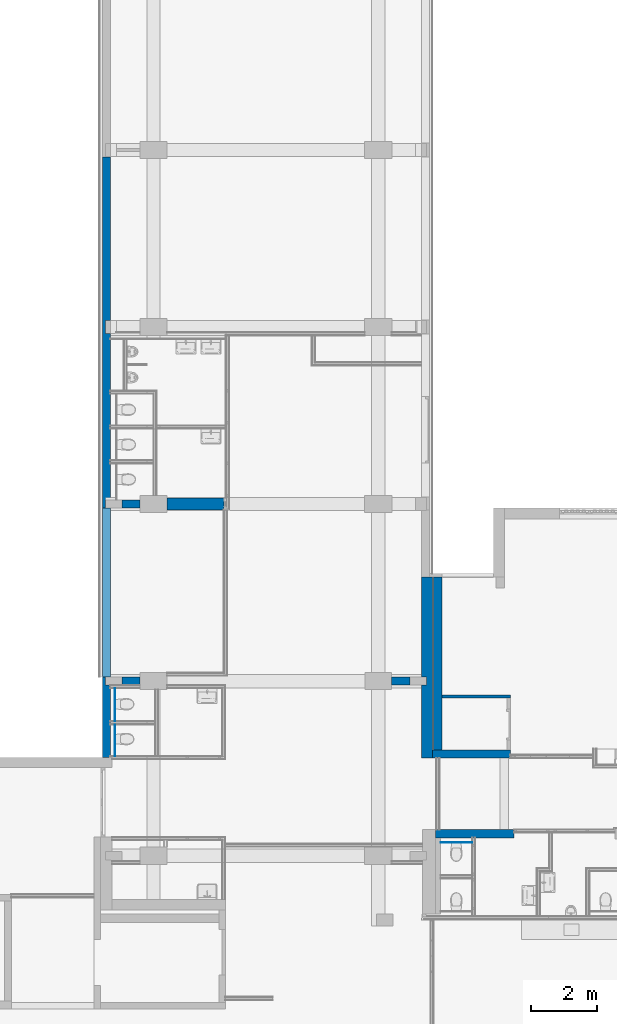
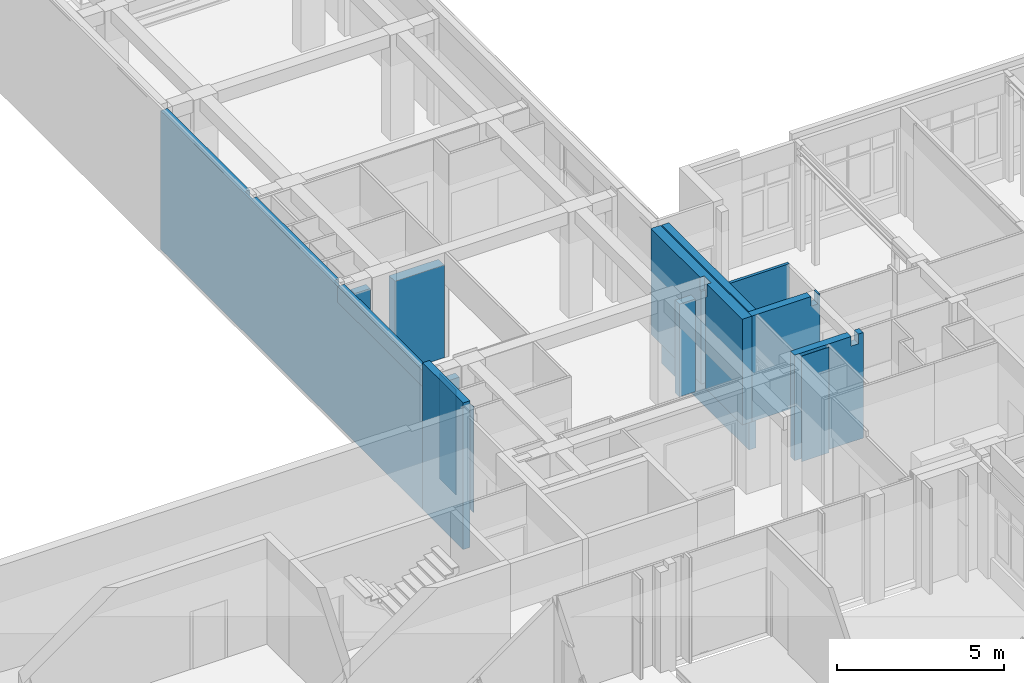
# One storey, part 86 of 135: 15 walls, 1 opening.
"""IFC2X3 building model written with IfcOpenShell, lengths in millimetres."""

import ifcopenshell
import ifcopenshell.guid

model = None  # the IFC model being written
_history = None  # IfcOwnerHistory: only IFC2X3 demands one
_inside = {}  # id of a spatial element -> (the spatial element, [elements in it])
_under = {}  # id of a project, library or spatial element -> (it, [spatial elements below it])
_declared = {}  # id of a project -> (the project, [libraries it declares])
_typed = {}  # id of a type object -> (the type object, [elements of that type])
_made_of = {}  # id of a material, layer set ... -> (it, [elements and type objects made of it])


def new_model(schema):
    """Start an empty IFC model of exactly this schema.

    Asked for "IFC4X3", IfcOpenShell would pick the latest addendum, in which some entities
    have other attributes; the version numbers below select the first issue.
    IFC2X3 requires an IfcOwnerHistory on every rooted entity: one is made here for all.
    """
    global model, _history
    if schema == "IFC4X3":
        model = ifcopenshell.file(schema_version=(4, 3, 0, 0))
    else:
        model = ifcopenshell.file(schema=schema)
    _inside.clear()
    _under.clear()
    _declared.clear()
    _typed.clear()
    _made_of.clear()
    _history = None
    if model.schema == "IFC2X3":
        org = make("IfcOrganization", Name="unknown")
        user = make(
            "IfcPersonAndOrganization",
            ThePerson=make("IfcPerson", FamilyName="unknown"),
            TheOrganization=org,
        )
        app = make(
            "IfcApplication",
            ApplicationDeveloper=org,
            Version="unknown",
            ApplicationFullName="unknown",
            ApplicationIdentifier="unknown",
        )
        _history = make(
            "IfcOwnerHistory",
            OwningUser=user,
            OwningApplication=app,
            ChangeAction="ADDED",
            CreationDate=0,
        )
    return model


def make(cls, **values):
    """One entity of the class cls with the attributes given. An attribute that is None is left unset."""
    return model.create_entity(
        cls, **{name: value for name, value in values.items() if value is not None}
    )


def entity(cls, *values):
    """Any entity or typed value of the class cls, its attributes in the order of the schema. None: left unset."""
    e = model.create_entity(cls)
    for i, value in enumerate(values):
        if value is not None:
            e[i] = value
    return e


def rooted(cls, **values):
    """An entity with a GlobalId (a new one), such as an element, a storey or a relation."""
    return make(cls, GlobalId=ifcopenshell.guid.new(), OwnerHistory=_history, **values)


def si_unit(unit_type, name, prefix=None):
    """IfcSIUnit, for example si_unit("LENGTHUNIT", "METRE", prefix="MILLI")."""
    return make("IfcSIUnit", UnitType=unit_type, Prefix=prefix, Name=name)


def converted_unit(unit_type, name, factor, base, dimensions=None, offset=None):
    """IfcConversionBasedUnit, such as the inch: factor (a typed value) times the base unit."""
    return make(
        "IfcConversionBasedUnit"
        if offset is None
        else "IfcConversionBasedUnitWithOffset",
        ConversionOffset=offset,
        Dimensions=None
        if dimensions is None
        else entity("IfcDimensionalExponents", *dimensions),
        UnitType=unit_type,
        Name=name,
        ConversionFactor=make(
            "IfcMeasureWithUnit", ValueComponent=factor, UnitComponent=base
        ),
    )


def derived_unit(unit_type, elements):
    """IfcDerivedUnit: a product of units, each with its exponent."""
    return make(
        "IfcDerivedUnit",
        Elements=[
            make("IfcDerivedUnitElement", Unit=unit, Exponent=power)
            for unit, power in elements
        ],
        UnitType=unit_type,
    )


def money_unit(currency):
    """IfcMonetaryUnit."""
    return make("IfcMonetaryUnit", Currency=currency)


def assignment(units):
    """IfcUnitAssignment: the units of a project."""
    return None if units is None else make("IfcUnitAssignment", Units=units)


def point(xyz):
    """IfcCartesianPoint."""
    return None if xyz is None else make("IfcCartesianPoint", Coordinates=xyz)


def direction(xyz):
    """IfcDirection."""
    return None if xyz is None else make("IfcDirection", DirectionRatios=xyz)


def frame(location, z_axis=None, x_axis=None):
    """IfcAxis2Placement3D, a coordinate frame: its origin and axes. An axis left out is left unset."""
    return make(
        "IfcAxis2Placement3D",
        Location=point(location),
        Axis=direction(z_axis),
        RefDirection=direction(x_axis),
    )


def origin_with_axes():
    """The frame at (0, 0, 0) with the z axis (0, 0, 1) and the x axis (1, 0, 0) written out."""
    return frame((0.0, 0.0, 0.0), z_axis=(0.0, 0.0, 1.0), x_axis=(1.0, 0.0, 0.0))


def place(relative_to, where):
    """IfcLocalPlacement: puts the frame where relative to a parent placement (None: the world)."""
    return make(
        "IfcLocalPlacement", PlacementRelTo=relative_to, RelativePlacement=where
    )


def context(
    kind, dimensions, precision=None, world=None, true_north=None, identifier=None
):
    """IfcGeometricRepresentationContext, for example the 3D "Model" context."""
    return make(
        "IfcGeometricRepresentationContext",
        ContextIdentifier=identifier,
        ContextType=kind,
        CoordinateSpaceDimension=dimensions,
        Precision=precision,
        WorldCoordinateSystem=world,
        TrueNorth=true_north,
    )


def subcontext(parent, identifier, kind, view, scale=None):
    """IfcGeometricRepresentationSubContext, for example "Body" below "Model"."""
    return make(
        "IfcGeometricRepresentationSubContext",
        ContextIdentifier=identifier,
        ContextType=kind,
        ParentContext=parent,
        TargetScale=scale,
        TargetView=view,
    )


def project(units=None, contexts=None):
    """IfcProject with its units and contexts."""
    return rooted(
        "IfcProject",
        Name="project",
        RepresentationContexts=contexts,
        UnitsInContext=assignment(units),
    )


def spatial(cls, under=None, at=None, **own):
    """A site, building, storey or space (cls), placed at a placement, below another one or the project."""
    s = rooted(cls, ObjectPlacement=at, **own)
    if under is not None:
        _under.setdefault(under.id(), (under, []))[1].append(s)
    return s


def faces_of(points, faces, orient=None, outer=None):
    """IfcFace entities. A face is a list of loops; a loop is a list of indices into points, from 0.

    orient and outer hold one flag for each loop. By default every Orientation is true, the
    first loop of a face is its IfcFaceOuterBound and the others are IfcFaceBound.
    """
    made = []
    for i, loops in enumerate(faces):
        bounds = []
        for j, loop in enumerate(loops):
            is_outer = j == 0 if outer is None else outer[i][j]
            bounds.append(
                make(
                    "IfcFaceOuterBound" if is_outer else "IfcFaceBound",
                    Bound=make("IfcPolyLoop", Polygon=[points[k] for k in loop]),
                    Orientation=True if orient is None else orient[i][j],
                )
            )
        made.append(make("IfcFace", Bounds=bounds))
    return made


def faceted_brep(points, faces, orient=None, outer=None, voids=None):
    """IfcFacetedBrep: a solid bounded by flat faces; with voids (closed shells), ...WithVoids."""
    shared = [point(p) for p in points]
    hull = make("IfcClosedShell", CfsFaces=faces_of(shared, faces, orient, outer))
    if voids is None:
        return make("IfcFacetedBrep", Outer=hull)
    return make(
        "IfcFacetedBrepWithVoids",
        Outer=hull,
        Voids=[
            make(cls, CfsFaces=faces_of(shared, fs, o, b)) for cls, fs, o, b in voids
        ],
    )


def shape(context_of_items, identifier, shape_type, items):
    """IfcShapeRepresentation: the items that make up one representation, for example the "Body"."""
    return make(
        "IfcShapeRepresentation",
        ContextOfItems=context_of_items,
        RepresentationIdentifier=identifier,
        RepresentationType=shape_type,
        Items=items,
    )


def material(Name=None, Category=None):
    """IfcMaterial."""
    return make("IfcMaterial", Name=Name, Category=Category)


def made_of(thing, what):
    """Note that an element or type object is made of a material, layer set ...; save() writes the relation."""
    if what is not None:
        _made_of.setdefault(what.id(), (what, []))[1].append(thing)
    return thing


def type_object(cls, material=None, **own):
    """A type object (cls), such as IfcWallType, which elements share."""
    return made_of(rooted(cls, **own), material)


def element(
    cls,
    number,
    at=None,
    inside=None,
    cuts=None,
    type_object=None,
    material=None,
    context=None,
    identifier="Body",
    shape_type=None,
    held_by="IfcProductDefinitionShape",
    body=None,
    shapes=None,
    **own,
):
    """One element of the class cls, such as IfcWall. Its Tag is "e" and its number.

    at: its placement. inside: the storey or other place that contains it. cuts: it is an
    opening in that element (IfcRelVoidsElement). A single representation is given by context,
    identifier, shape_type and body (its items); several are given by shapes. held_by: the class
    of the entity that holds the representations. save() writes the other relations.
    """
    e = rooted(cls, Tag="e%d" % number, ObjectPlacement=at, **own)
    if body is not None:
        shapes = [shape(context, identifier, shape_type, body)]
    if shapes is not None:
        e.Representation = make(held_by, Representations=shapes)
    if inside is not None:
        _inside.setdefault(inside.id(), (inside, []))[1].append(e)
    if cuts is not None:
        rooted(
            "IfcRelVoidsElement", RelatingBuildingElement=cuts, RelatedOpeningElement=e
        )
    if type_object is not None:
        _typed.setdefault(type_object.id(), (type_object, []))[1].append(e)
    return made_of(e, material)


def aggregate(whole, parts):
    """IfcRelAggregates: a whole, such as a stair, and the parts it consists of."""
    return rooted("IfcRelAggregates", RelatingObject=whole, RelatedObjects=parts)


def save(model, path):
    """Write the relations noted so far, then the file.

    IfcRelAggregates (storeys below a building ...), IfcRelContainedInSpatialStructure (elements
    in a storey), IfcRelDefinesByType, IfcRelAssociatesMaterial and IfcRelDeclares: one each for
    every whole, place, type object, material and project.
    """
    for whole, parts in _under.values():
        aggregate(whole, parts)
    for where, things in _inside.values():
        rooted(
            "IfcRelContainedInSpatialStructure",
            RelatedElements=things,
            RelatingStructure=where,
        )
    for kind, things in _typed.values():
        rooted("IfcRelDefinesByType", RelatedObjects=things, RelatingType=kind)
    for what, things in _made_of.values():
        rooted("IfcRelAssociatesMaterial", RelatedObjects=things, RelatingMaterial=what)
    for by, libraries in _declared.values():
        rooted("IfcRelDeclares", RelatingContext=by, RelatedDefinitions=libraries)
    model.write(path)


model = new_model("IFC2X3")

# Units and contexts
model_context = context("Model", 3, precision=0.01, world=origin_with_axes(), true_north=direction((0.0, 1.0)))
body_context = subcontext(model_context, "Body", "Model", "MODEL_VIEW")
ifc_project = project(units=[si_unit("LENGTHUNIT", "METRE", prefix="MILLI"), si_unit("AREAUNIT", "SQUARE_METRE"), si_unit("VOLUMEUNIT", "CUBIC_METRE"), converted_unit("PLANEANGLEUNIT", "DEGREE", entity("IfcPlaneAngleMeasure", 0.0174532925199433), si_unit("PLANEANGLEUNIT", "RADIAN"), dimensions=[0, 0, 0, 0, 0, 0, 0]), money_unit("EUR"), converted_unit("TIMEUNIT", "Year", entity("IfcTimeMeasure", 31557600.0), si_unit("TIMEUNIT", "SECOND"), dimensions=[0, 0, 1, 0, 0, 0, 0]), si_unit("MASSUNIT", "GRAM", prefix="KILO"), si_unit("THERMODYNAMICTEMPERATUREUNIT", "DEGREE_CELSIUS"), si_unit("LUMINOUSINTENSITYUNIT", "LUMEN"), si_unit("ENERGYUNIT", "JOULE", prefix="MEGA"), derived_unit("THERMALCONDUCTANCEUNIT", [(si_unit("POWERUNIT", "WATT"), 1), (si_unit("LENGTHUNIT", "METRE"), -1), (si_unit("THERMODYNAMICTEMPERATUREUNIT", "KELVIN"), -1)]), derived_unit("SPECIFICHEATCAPACITYUNIT", [(si_unit("ENERGYUNIT", "JOULE"), 1), (si_unit("MASSUNIT", "GRAM", prefix="KILO"), -1), (si_unit("THERMODYNAMICTEMPERATUREUNIT", "KELVIN"), -1)]), derived_unit("MASSDENSITYUNIT", [(si_unit("MASSUNIT", "GRAM", prefix="KILO"), 1), (si_unit("VOLUMEUNIT", "CUBIC_METRE"), -1)])], contexts=[model_context])

# Site, building, storey
site_placement = place(None, origin_with_axes())
site = spatial("IfcSite", under=ifc_project, at=site_placement, Name="Site", CompositionType="ELEMENT")
building_placement = place(site_placement, origin_with_axes())
building = spatial("IfcBuilding", under=site, at=building_placement, Name="Naam gebouw", CompositionType="ELEMENT")
storey_placement = place(building_placement, origin_with_axes())
storey = spatial("IfcBuildingStorey", under=building, at=storey_placement, Name="Begane grond N", CompositionType="ELEMENT", Elevation=0.0)

# Wall
ifc_material_1 = material(Name="ALG - CONSTRUCTIEF")
wall_type_1 = type_object("IfcWallType", Name="ALG - CONSTRUCTIEF 100", PredefinedType="NOTDEFINED")
wall_1_placement = place(storey_placement, frame((32481.11706441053, 22106.91242510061, -100.0), z_axis=(0.0, 0.0, 1.0), x_axis=(-1.0, 0.0, 0.0)))
element("IfcWall", 1, at=wall_1_placement, inside=storey, type_object=wall_type_1, material=ifc_material_1, Name="_Wand-x", context=body_context, shape_type="Brep", body=[
    faceted_brep([(1956.117064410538, -100.0000000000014, 100.0), (1956.117064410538, -100.0000000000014, 3950.0), (-100.0000000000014, -100.0000000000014, 3950.0), (-100.0000000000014, -100.0000000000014, 100.0), (1956.117064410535, 0.0, 100.0), (1956.117064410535, 0.0, 3950.0), (-100.0000000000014, 0.0, 3950.0), (-100.0000000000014, 0.0, 100.0)], [[[0, 1, 2, 3]], [[4, 5, 1, 0]], [[5, 6, 2, 1]], [[3, 2, 6, 7]], [[4, 0, 3, 7]], [[7, 6, 5, 4]]]),
])

# Wall, opening
wall_type_2 = type_object("IfcWallType", Name="ALG - CONSTRUCTIEF 240", PredefinedType="NOTDEFINED")
wall_2_placement = place(storey_placement, frame((20535.99999999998, 38400.6124251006, -1200.0), z_axis=(0.0, 0.0, 1.0), x_axis=(0.0, -1.0, 0.0)))
wall_2 = element("IfcWall", 2, at=wall_2_placement, inside=storey, type_object=wall_type_2, material=ifc_material_1, Name="_Wand-x", context=body_context, shape_type="Brep", body=[
    faceted_brep([(10569.7, -149.9999999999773, 4475.000000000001), (10569.7, 0.0, 4475.000000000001), (10569.7, 0.0, 1100.0), (10569.7, -149.9999999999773, 1100.0), (15649.70000000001, -170.0000000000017, 4475.000000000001), (15649.70000000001, 0.0, 4475.000000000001), (10569.7, -240.000000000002, 4475.000000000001), (15649.70000000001, -240.000000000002, 4475.000000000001), (15649.70000000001, 0.0, 0.0), (0.0, 0.0, 0.0), (0.0, 0.0, 5050.0), (4914.699999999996, 0.0, 5050.000000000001), (4914.699999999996, 0.0, 1100.0), (5314.700000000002, 0.0, 1100.0), (5314.700000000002, 0.0, 5050.000000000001), (10244.7, 0.0, 5050.000000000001), (10244.7, 0.0, 4579.998087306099), (10319.7, 0.0, 4579.998087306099), (10319.7, 0.0, 1100.0), (10319.7, -149.9999999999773, 1100.0), (10569.7, -149.9999999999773, 4579.998087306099), (10319.7, -149.9999999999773, 4579.998087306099), (10244.7, -149.9999999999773, 4579.998087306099), (10244.7, -149.9999999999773, 5050.000000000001), (10569.7, -149.9999999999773, 5050.000000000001), (15649.70000000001, -240.000000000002, 0.0), (10569.7, -170.0000000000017, 5050.000000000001), (10569.7, -240.000000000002, 5050.0), (0.0, -239.9999999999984, 0.0), (0.0, -239.9999999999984, 5050.0), (5314.700000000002, -149.9999999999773, 5050.000000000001), (4914.699999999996, -149.9999999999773, 5050.000000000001), (4914.699999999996, -149.9999999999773, 1100.0), (5314.700000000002, -149.9999999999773, 1100.0)], [[[0, 1, 2, 3]], [[4, 5, 1, 0, 6, 7]], [[1, 5, 8, 9, 10, 11, 12, 13, 14, 15, 16, 17, 18, 2]], [[18, 19, 3, 2]], [[20, 0, 3, 19, 21, 22, 23, 24]], [[5, 4, 7, 25, 8]], [[0, 20, 24, 26, 27, 6]], [[28, 25, 7, 6, 27, 29]], [[28, 9, 8, 25]], [[9, 28, 29, 10]], [[26, 24, 23, 15, 14, 30, 31, 11, 10, 29, 27]], [[11, 31, 32, 12]], [[12, 32, 33, 13]], [[33, 30, 14, 13]], [[16, 15, 23, 22]], [[17, 16, 22, 21]], [[17, 21, 19, 18]], [[32, 31, 30, 33]]]),
])
opening_placement = place(wall_2_placement, frame((13109.7, 0.0, 4475.000000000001), z_axis=(0.0, 0.0, 1.0), x_axis=(1.0, 0.0, 0.0)))
element("IfcOpeningElement", 3, at=opening_placement, cuts=wall_2, Name="_Merk-x", context=body_context, shape_type="Brep", body=[
    faceted_brep([(2540.000000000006, -170.0000000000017, 0.0), (2540.000000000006, -170.0000000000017, 775.0000000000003), (2540.000000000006, -240.9999999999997, 775.0000000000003), (2540.000000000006, -240.9999999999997, 0.0), (2540.000000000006, 1.000000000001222, 0.0), (2540.000000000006, 1.000000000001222, 775.0000000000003), (-2540.000000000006, -170.0000000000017, 775.0000000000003), (-2540.000000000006, -240.9999999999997, 775.0000000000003), (-2540.000000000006, 1.000000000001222, 775.0000000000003), (-2540.000000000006, -240.9999999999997, 0.0), (-2540.000000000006, -170.0000000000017, 0.0), (-2540.000000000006, 1.000000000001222, 0.0)], [[[0, 1, 2, 3]], [[1, 0, 4, 5]], [[6, 7, 2, 1, 5, 8]], [[7, 9, 3, 2]], [[0, 3, 9, 10, 11, 4]], [[5, 4, 11, 8]], [[6, 10, 9, 7]], [[10, 6, 8, 11]]]),
])

# Walls
wall_3_placement = place(storey_placement, frame((20535.99999999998, 22750.9124251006, -1200.0), z_axis=(0.0, 0.0, 1.0), x_axis=(0.0, -1.0, 0.0)))
element("IfcWall", 4, at=wall_3_placement, inside=storey, type_object=wall_type_2, material=ifc_material_1, Name="_Wand-x", context=body_context, shape_type="Brep", body=[
    faceted_brep([(0.0, 0.0, 5150.0), (0.0, -149.9999999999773, 5150.0), (0.0, -149.9999999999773, 5050.000000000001), (0.0, -149.9999999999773, 4579.997412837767), (0.0, -149.9999999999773, 1100.0), (0.0, 0.0, 1100.0), (0.0, 0.0, 0.0), (0.0, -239.9999999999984, 0.0), (0.0, -239.9999999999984, 5350.000000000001), (0.0, 0.0, 5350.000000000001), (249.9999999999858, -149.9999999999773, 5150.0), (249.9999999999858, 0.0, 5150.0), (249.9999999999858, -149.9999999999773, 5050.000000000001), (330.8146167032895, -149.9999999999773, 5050.000000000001), (330.8146167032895, -149.9999999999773, 4579.997412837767), (249.9999999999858, -149.9999999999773, 4579.997412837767), (249.9999999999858, -149.9999999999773, 1100.0), (249.9999999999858, 0.0, 1100.0), (330.8146167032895, 0.0, 5050.000000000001), (249.9999999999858, 0.0, 5050.000000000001), (2424.998528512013, 0.0, 5350.000000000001), (2424.998528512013, 0.0, 0.0), (249.9999999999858, 0.0, 4579.997412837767), (330.8146167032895, 0.0, 4579.997412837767), (2424.998528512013, -240.000000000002, 0.0), (2424.998528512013, -239.9999999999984, 5350.000000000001)], [[[0, 1, 2, 3, 4, 5, 6, 7, 8, 9]], [[10, 1, 0, 11]], [[3, 2, 1, 10, 12, 13, 14, 15, 16, 4]], [[16, 17, 5, 4]], [[18, 19, 11, 0, 9, 20, 21, 6, 5, 17, 22, 23]], [[21, 24, 7, 6]], [[24, 25, 8, 7]], [[25, 20, 9, 8]], [[10, 11, 19, 12]], [[13, 12, 19, 18]], [[14, 13, 18, 23]], [[23, 22, 15, 14]], [[16, 15, 22, 17]], [[25, 24, 21, 20]]]),
])
wall_type_3 = type_object("IfcWallType", Name="ALG - CONSTRUCTIEF 330", PredefinedType="NOTDEFINED")
wall_4_placement = place(storey_placement, frame((29906.0, 25760.89702607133, 0.0), z_axis=(0.0, 0.0, 1.0), x_axis=(0.0, -1.0, 0.0)))
element("IfcWall", 5, at=wall_4_placement, inside=storey, type_object=wall_type_3, material=ifc_material_1, Name="_Wand-x", context=body_context, shape_type="Brep", body=[
    faceted_brep([(2940.799217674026, 0.0, 3379.997412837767), (3009.984600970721, 0.0, 3379.997412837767), (3009.984600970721, 149.9999999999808, 3379.997412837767), (2940.799217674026, 149.9999999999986, 3379.997412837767), (0.0, 0.0, 0.0), (3009.984600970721, 0.0, 0.0), (2940.799217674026, 0.0, 3850.0), (0.0, 0.0, 3850.0), (3009.984600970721, 149.9999999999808, 0.0), (3259.984600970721, 149.9999999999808, 0.0), (3259.984600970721, 149.9999999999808, 3379.997412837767), (3340.799217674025, 149.9999999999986, 3379.997412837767), (3340.799217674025, 149.9999999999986, 3850.0), (2940.799217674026, 149.9999999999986, 3850.0), (0.0, 329.9999999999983, 0.0), (5459.984584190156, 329.9999999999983, 0.0), (5459.984584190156, 0.0, 0.0), (3259.984600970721, 0.0, 0.0), (3340.799217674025, 0.0, 3850.0), (5459.984584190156, 0.0, 3850.0), (5459.984584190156, 329.9999999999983, 3850.0), (0.0, 330.0000000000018, 3850.0), (0.0, 10.53216587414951, 3850.0), (3259.984600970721, 0.0, 3379.997412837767), (3340.799217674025, 0.0, 3379.997412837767)], [[[0, 1, 2, 3]], [[4, 5, 1, 0, 6, 7]], [[8, 2, 1, 5]], [[3, 2, 8, 9, 10, 11, 12, 13]], [[0, 3, 13, 6]], [[9, 8, 5, 4, 14, 15, 16, 17]], [[6, 13, 12, 18, 19, 20, 21, 22, 7]], [[21, 14, 4, 7, 22]], [[17, 23, 10, 9]], [[11, 10, 23, 24]], [[11, 24, 18, 12]], [[20, 15, 14, 21]], [[19, 16, 15, 20]], [[24, 23, 17, 16, 19, 18]]]),
])
wall_type_4 = type_object("IfcWallType", Name="ALG - CONSTRUCTIEF 250", PredefinedType="NOTDEFINED")
wall_5_placement = place(storey_placement, frame((29906.0, 20550.91242510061, -100.0), z_axis=(0.0, 0.0, 1.0), x_axis=(1.0, 0.0, 0.0)))
element("IfcWall", 6, at=wall_5_placement, inside=storey, type_object=wall_type_4, material=ifc_material_1, Name="_Wand-x", context=body_context, shape_type="Brep", body=[
    faceted_brep([(2368.999999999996, 0.0, 3950.0), (2368.999999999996, 0.0, 3599.999989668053), (2618.999999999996, 0.0, 3599.999989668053), (2618.999999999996, 0.0, 3950.0), (2675.117064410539, 0.0, 3950.0), (2675.117064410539, 0.0, 100.0), (329.9999999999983, 0.0, 100.0), (329.9999999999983, 0.0, 3950.0), (2368.999999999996, -250.0, 3599.999989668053), (2368.999999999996, -249.9999978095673, 3950.0), (2618.999999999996, -250.0, 3599.999989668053), (2618.999999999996, -249.999999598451, 3950.0), (2675.117064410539, -250.0, 3950.0), (2675.117064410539, -250.0, 100.0), (329.9999999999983, -249.999983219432, 100.0), (329.9999999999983, -249.999983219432, 3950.0)], [[[0, 1, 2, 3, 4, 5, 6, 7]], [[8, 1, 0, 9]], [[10, 2, 1, 8]], [[10, 11, 3, 2]], [[4, 3, 11, 12]], [[13, 5, 4, 12]], [[13, 14, 6, 5]], [[6, 14, 15, 7]], [[15, 9, 0, 7]], [[10, 8, 9, 15, 14, 13, 12, 11]]]),
])
wall_6_placement = place(storey_placement, frame((29929.18709933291, 18150.91242510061, -100.0), z_axis=(0.0, 0.0, 1.0), x_axis=(1.0, 0.0, 0.0)))
element("IfcWall", 7, at=wall_6_placement, inside=storey, type_object=wall_type_4, material=ifc_material_1, Name="_Wand-x", context=body_context, shape_type="Brep", body=[
    faceted_brep([(2345.812900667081, 0.0, 3950.0), (2345.812900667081, 0.0, 3599.999989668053), (2595.812900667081, 0.0, 3599.999989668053), (2595.812900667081, 0.0, 3950.0), (2769.999999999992, 0.0, 3950.0), (2769.999999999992, 0.0, 100.0), (399.9999999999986, 0.0, 100.0), (399.9999999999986, 0.0, 3950.0), (2345.812900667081, -250.0, 3599.999989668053), (2345.812900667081, -250.0, 3950.0), (2595.812900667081, -250.0, 3599.999989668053), (2595.812900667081, -250.0, 3950.0), (2769.999999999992, -250.0, 3950.0), (2769.999999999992, -250.0, 100.0), (399.9999999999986, -250.0, 100.0), (399.9999999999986, -250.0, 3950.0)], [[[0, 1, 2, 3, 4, 5, 6, 7]], [[8, 1, 0, 9]], [[10, 2, 1, 8]], [[10, 11, 3, 2]], [[4, 3, 11, 12]], [[13, 5, 4, 12]], [[13, 14, 6, 5]], [[6, 14, 15, 7]], [[15, 9, 0, 7]], [[10, 8, 9, 15, 14, 13, 12, 11]]]),
])
wall_7_placement = place(storey_placement, frame((30524.99999999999, 25760.89702607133, -1200.0), z_axis=(0.0, 0.0, 1.0), x_axis=(0.0, -1.0, 0.0)))
element("IfcWall", 8, at=wall_7_placement, inside=storey, type_object=wall_type_4, material=ifc_material_1, Name="_Wand-x", context=body_context, shape_type="Brep", body=[
    faceted_brep([(0.0, -250.0, 0.0), (0.0, -250.0, 1000.0), (0.0, 0.0, 1000.0), (0.0, 0.0, 0.0), (5209.984600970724, -250.0000000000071, 0.0), (5209.984600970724, -250.0000000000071, 1000.0), (5209.984600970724, 0.0, 1000.0), (5209.984600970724, 0.0, 0.0)], [[[0, 1, 2, 3]], [[4, 5, 1, 0]], [[5, 6, 2, 1]], [[3, 2, 6, 7]], [[4, 0, 3, 7]], [[7, 6, 5, 4]]]),
    faceted_brep([(0.0, -250.0, 1200.0), (0.0, -250.0, 5050.000000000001), (0.0, 0.0, 5050.000000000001), (0.0, 0.0, 1200.0), (5209.984600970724, -250.0000000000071, 1200.0), (5209.984600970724, -250.0000000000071, 5050.000000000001), (5209.984600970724, 0.0, 5050.000000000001), (5209.984600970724, 0.0, 1200.0)], [[[0, 1, 2, 3]], [[4, 5, 1, 0]], [[5, 6, 2, 1]], [[3, 2, 6, 7]], [[4, 0, 3, 7]], [[7, 6, 5, 4]]]),
])
wall_8_placement = place(storey_placement, frame((20536.0, 22625.91242510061, -1200.0), z_axis=(0.0, 0.0, 1.0), x_axis=(1.0, 0.0, 0.0)))
element("IfcWall", 9, at=wall_8_placement, inside=storey, type_object=wall_type_4, material=ifc_material_1, Name="_Wand-x", context=body_context, shape_type="Brep", body=[
    faceted_brep([(890.0000000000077, 125.0, 1200.0), (350.0000000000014, 125.0, 1200.0), (350.0000000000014, 125.0, 4579.997412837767), (890.0000000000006, 125.0, 4579.997412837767), (890.0000000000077, -125.0, 1200.0), (350.0000000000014, -125.0, 1200.0), (350.0000000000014, -125.0, 4579.997412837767), (890.0000000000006, -125.0, 4579.997412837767)], [[[0, 1, 2, 3]], [[4, 5, 1, 0]], [[5, 6, 2, 1]], [[3, 2, 6, 7]], [[4, 0, 3, 7]], [[7, 6, 5, 4]]]),
    faceted_brep([(0.0, 125.0, 0.0), (0.0, 125.0, 1000.0), (890.0000000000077, 125.0, 1000.0), (890.0000000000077, 125.0, 0.0), (0.0, -125.0, 0.0), (0.0, -125.0, 1000.0), (890.0000000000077, -125.0, 1000.0), (890.0000000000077, -125.0, 0.0)], [[[0, 1, 2, 3]], [[4, 5, 1, 0]], [[5, 6, 2, 1]], [[3, 2, 6, 7]], [[4, 0, 3, 7]], [[7, 6, 5, 4]]]),
])
wall_9_placement = place(storey_placement, frame((28960.0, 22625.91242510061, 0.0), z_axis=(0.0, 0.0, 1.0), x_axis=(1.0, 0.0, 0.0)))
element("IfcWall", 10, at=wall_9_placement, inside=storey, type_object=wall_type_4, material=ifc_material_1, Name="_Wand-x", context=body_context, shape_type="Brep", body=[
    faceted_brep([(595.9999999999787, 125.0, 0.0), (45.99999999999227, 125.0, 0.0), (45.99999999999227, 125.0, 3379.997412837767), (595.9999999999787, 125.0, 3379.997412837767), (595.9999999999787, -125.0, 0.0), (45.99999999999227, -125.0, 0.0), (45.99999999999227, -125.0, 3379.997412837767), (595.9999999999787, -125.0, 3379.997412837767)], [[[0, 1, 2, 3]], [[4, 5, 1, 0]], [[5, 6, 2, 1]], [[3, 2, 6, 7]], [[4, 0, 3, 7]], [[7, 6, 5, 4]]]),
])
wall_10_placement = place(storey_placement, frame((20886.0, 27955.91242510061, 0.0), z_axis=(0.0, 0.0, 1.0), x_axis=(1.0, 0.0, 0.0)))
element("IfcWall", 11, at=wall_10_placement, inside=storey, type_object=wall_type_4, material=ifc_material_1, Name="_Wand-x", context=body_context, shape_type="Brep", body=[
    faceted_brep([(0.0, -125.0, 3379.998087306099), (539.9999999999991, -125.0, 3379.998087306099), (539.9999999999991, 125.0, 3379.998087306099), (0.0, 125.0, 3379.998087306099), (0.0, -125.0, 0.0), (539.9999999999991, -125.0, 0.0), (539.9999999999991, 125.0, 0.0), (0.0, 125.0, 0.0)], [[[0, 1, 2, 3]], [[4, 5, 1, 0]], [[5, 6, 2, 1]], [[3, 2, 6, 7]], [[7, 4, 0, 3]], [[7, 6, 5, 4]]]),
])
wall_type_5 = type_object("IfcWallType", Name="ALG - CONSTRUCTIEF 350", PredefinedType="NOTDEFINED")
wall_11_placement = place(storey_placement, frame((22189.99999999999, 27955.91242510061, 0.0), z_axis=(0.0, 0.0, 1.0), x_axis=(1.0, 0.0, 0.0)))
element("IfcWall", 12, at=wall_11_placement, inside=storey, type_object=wall_type_5, material=ifc_material_1, Name="_Wand-x", context=body_context, shape_type="Brep", body=[
    faceted_brep([(1765.444270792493, 175.0000000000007, 0.0), (56.00000000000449, 175.0000000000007, 0.0), (56.00000000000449, 175.0000000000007, 3379.998087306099), (1765.444270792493, 175.0000000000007, 3379.998087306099), (1765.444270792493, -175.0000000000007, 0.0), (56.00000000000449, -175.0000000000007, 0.0), (56.00000000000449, -175.0000000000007, 3379.998087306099), (1765.444270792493, -175.0000000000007, 3379.998087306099)], [[[0, 1, 2, 3]], [[4, 5, 1, 0]], [[5, 6, 2, 1]], [[3, 2, 6, 7]], [[4, 0, 3, 7]], [[7, 6, 5, 4]]]),
])
ifc_material_2 = material(Name="Steen - Betonblok C")
wall_type_6 = type_object("IfcWallType", Name="Steen - Betonblok C 240", PredefinedType="NOTDEFINED")
wall_12_placement = place(storey_placement, frame((20535.99999999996, 22750.91242510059, 3275.0), z_axis=(0.0, 0.0, 1.0), x_axis=(0.0, 1.0, 0.0)))
element("IfcWall", 13, at=wall_12_placement, inside=storey, type_object=wall_type_6, material=ifc_material_2, Name="_Wand-x", context=body_context, shape_type="Brep", body=[
    faceted_brep([(0.0, 239.9999999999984, 574.9999999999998), (0.0, 0.0, 574.9999999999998), (5080.000000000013, 0.0, 574.9999999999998), (5080.000000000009, 240.0000000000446, 574.9999999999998), (0.0, 239.9999999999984, 0.0), (0.0, 0.0, 0.0), (5080.000000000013, 0.0, 0.0), (5080.000000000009, 240.0000000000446, 0.0)], [[[0, 1, 2, 3]], [[4, 5, 1, 0]], [[1, 5, 6, 2]], [[7, 3, 2, 6]], [[4, 0, 3, 7]], [[5, 4, 7, 6]]]),
])
ifc_material_3 = material(Name="Gipsplaat")
wall_type_7 = type_object("IfcWallType", Name="Metalstud 150 enkel 150", PredefinedType="NOTDEFINED")
wall_13_placement = place(storey_placement, frame((20685.99999999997, 22400.91242510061, 0.0), z_axis=(0.0, 0.0, 1.0), x_axis=(0.0, -1.0, 0.0)))
element("IfcWall", 14, at=wall_13_placement, inside=storey, type_object=wall_type_7, material=ifc_material_3, Name="_Wand-x", context=body_context, shape_type="Brep", body=[
    faceted_brep([(0.0, -12.49999999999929, 0.0), (0.0, -12.49999999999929, 3850.000000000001), (0.0, 0.0, 3850.000000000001), (0.0, 0.0, 0.0), (987.4999999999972, -12.49999999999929, 0.0), (987.4999999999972, -12.49999999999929, 3850.000000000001), (987.4999999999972, 0.0, 3850.000000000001), (987.4999999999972, 0.0, 0.0)], [[[0, 1, 2, 3]], [[4, 5, 1, 0]], [[5, 6, 2, 1]], [[3, 2, 6, 7]], [[0, 3, 7, 4]], [[7, 6, 5, 4]]]),
])
wall_14_placement = place(storey_placement, frame((20685.99999999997, 21313.41242510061, 0.0), z_axis=(0.0, 0.0, 1.0), x_axis=(0.0, -1.0, 0.0)))
element("IfcWall", 15, at=wall_14_placement, inside=storey, type_object=wall_type_7, material=ifc_material_3, Name="_Wand-x", context=body_context, shape_type="Brep", body=[
    faceted_brep([(0.0, -12.49999999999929, 0.0), (0.0, -12.49999999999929, 3850.000000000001), (0.0, 0.0, 3850.000000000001), (0.0, 0.0, 0.0), (949.9999999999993, -12.49999999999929, 0.0), (949.9999999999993, -12.49999999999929, 3850.000000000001), (949.9999999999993, 0.0, 3850.000000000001), (949.9999999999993, 0.0, 0.0)], [[[0, 1, 2, 3]], [[4, 5, 1, 0]], [[5, 6, 2, 1]], [[3, 2, 6, 7]], [[0, 3, 7, 4]], [[7, 6, 5, 4]]]),
])
wall_15_placement = place(storey_placement, frame((30479.18709933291, 17750.91242510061, 0.0), z_axis=(0.0, 0.0, 1.0), x_axis=(1.0, 0.0, 0.0)))
element("IfcWall", 16, at=wall_15_placement, inside=storey, type_object=wall_type_7, material=ifc_material_3, Name="_Wand-x", context=body_context, shape_type="Brep", body=[
    faceted_brep([(0.0, 12.49999999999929, 0.0), (0.0, 12.49999999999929, 3850.000000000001), (949.9999999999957, 12.49999999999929, 3850.000000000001), (949.9999999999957, 12.49999999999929, 0.0), (0.0, 0.0, 0.0), (0.0, 0.0, 3850.000000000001), (949.9999999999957, 0.0, 3850.000000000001), (949.9999999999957, 0.0, 0.0)], [[[0, 1, 2, 3]], [[4, 5, 1, 0]], [[5, 6, 2, 1]], [[3, 2, 6, 7]], [[4, 0, 3, 7]], [[7, 6, 5, 4]]]),
])

save(model, "model.ifc")
